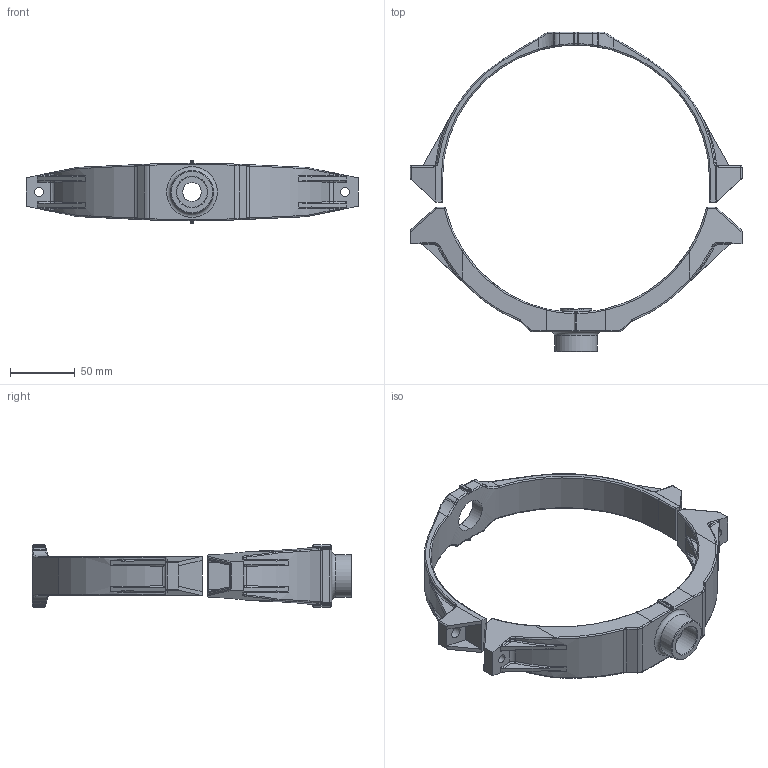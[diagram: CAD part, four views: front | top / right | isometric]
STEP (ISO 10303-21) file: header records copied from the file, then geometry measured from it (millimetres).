
FILE_DESCRIPTION(/* description */ (''),/* implementation_level */ '2;1');
FILE_NAME(/* name */ 'AU19 A199 00.stp',/* time_stamp */ '2025-07-25T14:12:49+08:00',/* author */ (''),/* organization */ (''),/* preprocessor_version */ 'ST-DEVELOPER v11',/* originating_system */ 'SIEMENS PLM Software NX 7.5',/* authorisation */ '');
FILE_SCHEMA (('CONFIG_CONTROL_DESIGN'));
Length unit declared in the file: millimetre
Products named in the file (1): Admi3CF6xyqz
Bounding box: 256 x 246.5 x 48 mm (x, y, z)
Volume: 224397.7 mm3; surface area: 83261.9 mm2
Topology: 2 solids, 2 shells, 751 faces, 1807 edges, 997 vertices
Faces by surface type: cylinder 245, bspline 215, plane 159, sphere 69, torus 59, cone 4
Full cylindrical faces by diameter (mm): 6.8 x2, 9 x2, 23.5 x1, 24 x1, 29.7 x1, 33 x1, 36.7 x1
Entity records: 26359 total; most frequent: CARTESIAN_POINT 10342, ORIENTED_EDGE 3396, DIRECTION 3329, EDGE_CURVE 1698, AXIS2_PLACEMENT_3D 1391, VERTEX_POINT 985, EDGE_LOOP 797, ADVANCED_FACE 751
